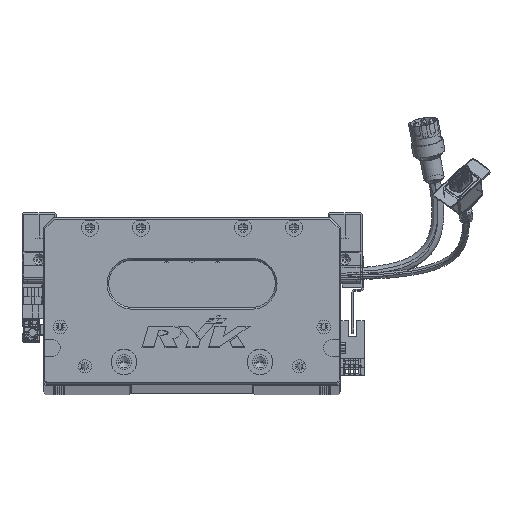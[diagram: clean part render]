
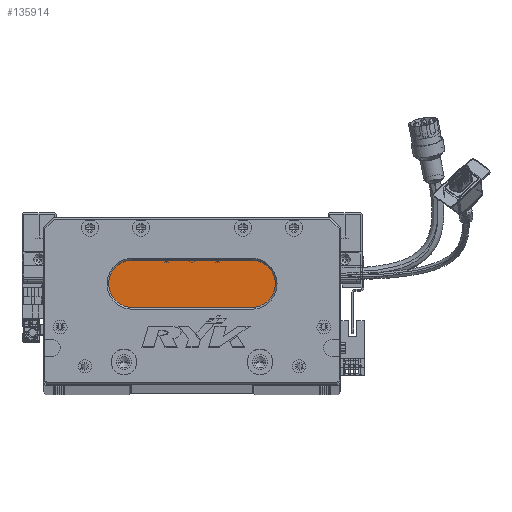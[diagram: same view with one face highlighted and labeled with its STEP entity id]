
A CAD part, top view. The second image highlights one B-rep face of the part: STEP entity #135914.
In plain terms, the highlighted planar face has unit normal (0, 0, 1) as drawn and (0, 0, -1) by its records, which use the part's own axes.
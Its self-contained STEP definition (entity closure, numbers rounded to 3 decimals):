
#2488 = AXIS2_PLACEMENT_3D ( 'NONE', #101751, #68304, #100368 ) ;
#3196 = DIRECTION ( 'NONE',  ( -1., 0., 0. ) ) ;
#4030 = CARTESIAN_POINT ( 'NONE',  ( 122.5, 45., 18. ) ) ;
#4798 = PLANE ( 'NONE',  #86298 ) ;
#5275 = CARTESIAN_POINT ( 'NONE',  ( 122.5, 59., 18. ) ) ;
#7663 = AXIS2_PLACEMENT_3D ( 'NONE', #17788, #114335, #82825 ) ;
#12543 = ORIENTED_EDGE ( 'NONE', *, *, #28662, .T. ) ;
#17224 = CIRCLE ( 'NONE', #2488, 14. ) ;
#17788 = CARTESIAN_POINT ( 'NONE',  ( 52.5, 59., 18. ) ) ;
#19976 = EDGE_CURVE ( 'NONE', #39015, #118239, #85449, .T. ) ;
#25776 = ORIENTED_EDGE ( 'NONE', *, *, #80206, .T. ) ;
#27697 = DIRECTION ( 'NONE',  ( 0., 0., -1. ) ) ;
#28662 = EDGE_CURVE ( 'NONE', #127405, #48672, #60794, .T. ) ;
#30983 = ORIENTED_EDGE ( 'NONE', *, *, #19976, .T. ) ;
#31515 = CARTESIAN_POINT ( 'NONE',  ( 38.5, 59., 18. ) ) ;
#35886 = ORIENTED_EDGE ( 'NONE', *, *, #57589, .T. ) ;
#39015 = VERTEX_POINT ( 'NONE', #31515 ) ;
#46453 = FACE_OUTER_BOUND ( 'NONE', #97595, .T. ) ;
#48672 = VERTEX_POINT ( 'NONE', #100587 ) ;
#50008 = ORIENTED_EDGE ( 'NONE', *, *, #115889, .T. ) ;
#50183 = DIRECTION ( 'NONE',  ( 1., 0., 0. ) ) ;
#57585 = CARTESIAN_POINT ( 'NONE',  ( 52.5, 59., 18. ) ) ;
#57589 = EDGE_CURVE ( 'NONE', #118239, #71967, #103721, .T. ) ;
#57838 = DIRECTION ( 'NONE',  ( -1., 0., 0. ) ) ;
#60794 = LINE ( 'NONE', #69770, #136032 ) ;
#65964 = CARTESIAN_POINT ( 'NONE',  ( 52.5, 73., 18. ) ) ;
#68304 = DIRECTION ( 'NONE',  ( 0., 0., -1. ) ) ;
#68578 = DIRECTION ( 'NONE',  ( 0., 0., -1. ) ) ;
#69770 = CARTESIAN_POINT ( 'NONE',  ( 122.5, 45., 18. ) ) ;
#71967 = VERTEX_POINT ( 'NONE', #94508 ) ;
#80206 = EDGE_CURVE ( 'NONE', #71967, #127405, #17224, .T. ) ;
#82825 = DIRECTION ( 'NONE',  ( -1., 0., 0. ) ) ;
#85449 = CIRCLE ( 'NONE', #128421, 14. ) ;
#86298 = AXIS2_PLACEMENT_3D ( 'NONE', #5275, #27697, #115574 ) ;
#94508 = CARTESIAN_POINT ( 'NONE',  ( 122.5, 73., 18. ) ) ;
#97595 = EDGE_LOOP ( 'NONE', ( #25776, #12543, #50008, #30983, #35886 ) ) ;
#100368 = DIRECTION ( 'NONE',  ( -1., 0., 0. ) ) ;
#100587 = CARTESIAN_POINT ( 'NONE',  ( 52.5, 45., 18. ) ) ;
#101751 = CARTESIAN_POINT ( 'NONE',  ( 122.5, 59., 18. ) ) ;
#103721 = LINE ( 'NONE', #139022, #134399 ) ;
#110292 = CIRCLE ( 'NONE', #7663, 14. ) ;
#114335 = DIRECTION ( 'NONE',  ( 0., 0., -1. ) ) ;
#115574 = DIRECTION ( 'NONE',  ( -1., 0., 0. ) ) ;
#115889 = EDGE_CURVE ( 'NONE', #48672, #39015, #110292, .T. ) ;
#118239 = VERTEX_POINT ( 'NONE', #65964 ) ;
#127405 = VERTEX_POINT ( 'NONE', #4030 ) ;
#128421 = AXIS2_PLACEMENT_3D ( 'NONE', #57585, #68578, #3196 ) ;
#134399 = VECTOR ( 'NONE', #50183, 1000. ) ;
#135914 = ADVANCED_FACE ( 'NONE', ( #46453 ), #4798, .T. ) ;
#136032 = VECTOR ( 'NONE', #57838, 1000. ) ;
#139022 = CARTESIAN_POINT ( 'NONE',  ( 122.5, 73., 18. ) ) ;
